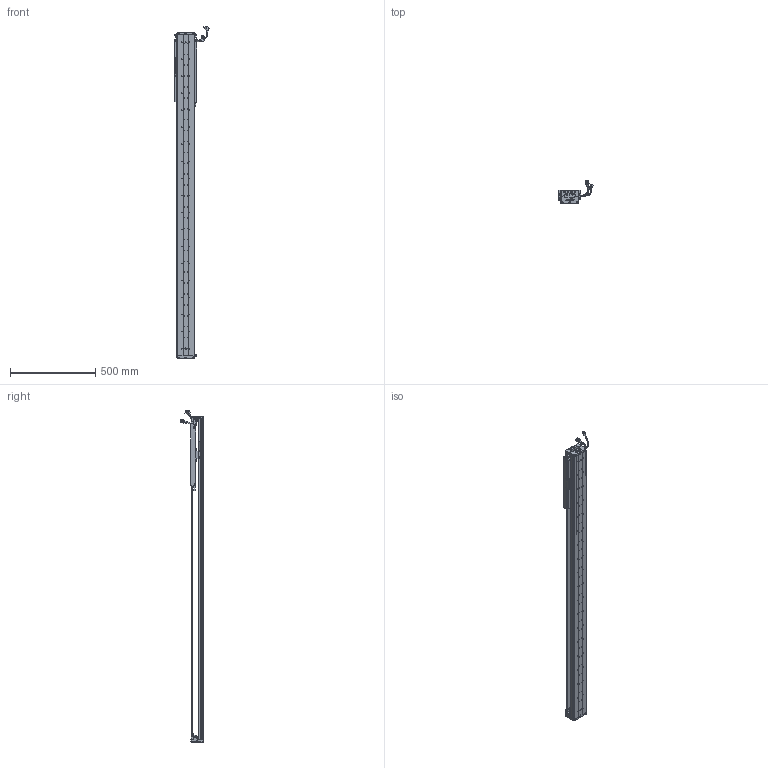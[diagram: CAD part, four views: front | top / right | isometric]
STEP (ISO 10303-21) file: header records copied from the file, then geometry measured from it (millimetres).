
FILE_DESCRIPTION (( 'STEP AP203' ), '1' );
FILE_NAME ('Z5-RY100D-1-L500-B-K.SLDASM_1450.step', '2021-05-17T03:33:34', ( '盈信电脑' ), ( '东莞市道滘镇水果街19号' ), 'SwSTEP 2.0', 'SolidWorks 2016', '' );
FILE_SCHEMA (( 'CONFIG_CONTROL_DESIGN' ));
Length unit declared in the file: millimetre
Products named in the file (36): Z5-RY100D-500-倰第菁釱_1450; 100-Z-臏賑輸盄裔(21遴); LABEL-Part-1; SHIELDPLATE; SCREW-M1.6-1; HARNESS; SCREW-M1.6; HARNESS-Part-2; PBU_SHEET; SCREW-M1.6-2; SCALE; 140雄赽晤鎢ん堤盄; COVER-Part-1; SCALE-Part-1; Z5-RY100-L500詩湍90mm遵_1450; Z5-RY100D-1-L500-B-K.SLDASM_1450; LABEL; Z-RY100D詩湍狟揤裔; SEAL; HOLDER0; HARNESS-Part-1; PSLH080_PSLF2; 080黍杅芛假蚾釱21遴; SEAL-Part-1; 140蚥薯蝶輸; 覜茼ん672; SCREW-M1.7-1; Z-RY100D詩湍奻揤裔; Z-100詩湍傷裔啣; SCALE-Part-2; COVER; Z-RY100D覜茼んえ; SCREW-M1.6-3; SCREW-M1.7; 榋妏寠巭燃_暯_M2_2; Z5-RY100铝滑块（21款）
Assembly tree (43 placements, depth 4):
  Z5-RY100D-1-L500-B-K.SLDASM_1450
    Z5-RY100D-500-倰第菁釱_1450
    Z5-RY100铝滑块（21款）
    PSLH080_PSLF2
      SCALE
        SCALE-Part-1
        SCALE-Part-2
      HARNESS
        HARNESS-Part-1
        HARNESS-Part-2
      LABEL
        LABEL-Part-1
      COVER
        COVER-Part-1
      SEAL
        SEAL-Part-1
      榋妏寠巭燃_暯_M2_2
      SHIELDPLATE
      SCREW-M1.7
      SCREW-M1.7-1
      PBU_SHEET
      SCREW-M1.6
      SCREW-M1.6-1
      SCREW-M1.6-2
      SCREW-M1.6-3
      HOLDER0
    080黍杅芛假蚾釱21遴
    Z-100詩湍傷裔啣  x2
    140蚥薯蝶輸  x2
    覜茼ん672  x3
    Z-RY100D覜茼んえ  x3
    100-Z-臏賑輸盄裔(21遴)
    140雄赽晤鎢ん堤盄
    Z5-RY100-L500詩湍90mm遵_1450
    Z-RY100D詩湍狟揤裔  x2
    Z-RY100D詩湍奻揤裔  x2
Bounding box: 205.84 x 136.11 x 1950.43 mm (x, y, z)
Volume: 3948988.5 mm3; surface area: 1505936.9 mm2
Topology: 38 solids, 38 shells, 2823 faces, 7573 edges, 4816 vertices
Faces by surface type: cylinder 1318, plane 1157, cone 226, torus 69, bspline 53
Entity records: 79579 total; most frequent: CARTESIAN_POINT 16695, DIRECTION 12747, ORIENTED_EDGE 12026, EDGE_CURVE 6013, AXIS2_PLACEMENT_3D 4752, VERTEX_POINT 3884, VECTOR 3243, LINE 3243
